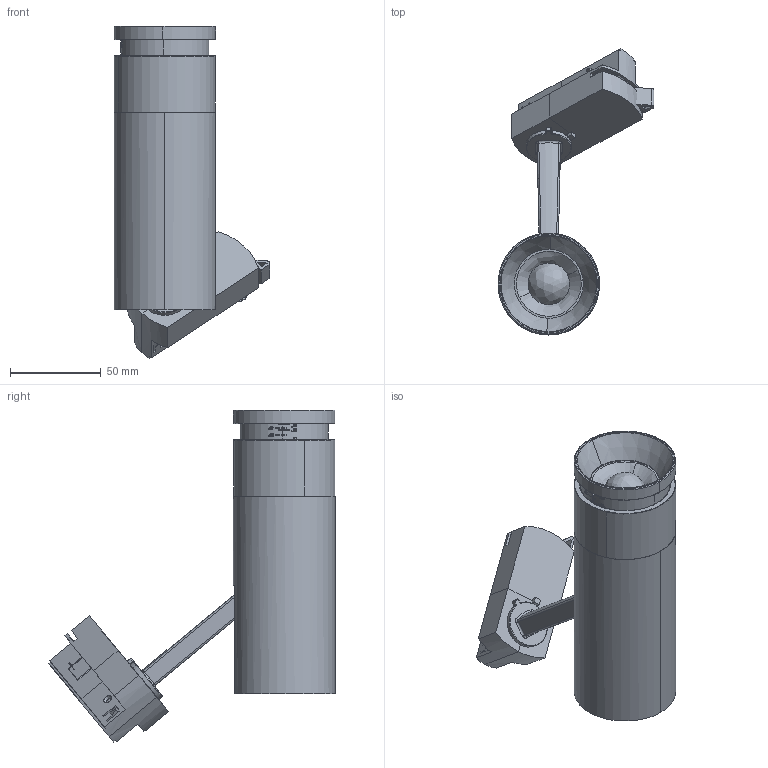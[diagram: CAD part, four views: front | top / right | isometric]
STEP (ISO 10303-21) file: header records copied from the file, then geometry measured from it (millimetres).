
FILE_DESCRIPTION (( 'STEP AP203' ), '1' );
FILE_NAME ('303051.STEP', '2020-04-23T01:23:14', ( '' ), ( '' ), 'SwSTEP 2.0', 'SolidWorks 2014', '' );
FILE_SCHEMA (( 'CONFIG_CONTROL_DESIGN' ));
Length unit declared in the file: millimetre
Products named in the file (16): PRT0070; PRT0066; D40; ǰȦ; 縐銅; PRT0069; 伸缩圈; PRT0071; PRT0063; 303051; 散热器-修模1; PRT0068; POWEGEAR; 嫖埭郪璃; PRT0067; CE-2_1
Assembly tree (16 placements, depth 2):
  303051
    散热器-修模1
    PRT0063
    PRT0066
    PRT0067
    PRT0068
    PRT0069
    PRT0070
    PRT0071
    CE-2_1  x2
    ǰȦ
    伸缩圈
    D40
    嫖埭郪璃
    縐銅
    POWEGEAR
Bounding box: 86 x 157.71 x 183.06 mm (x, y, z)
Volume: 217554.3 mm3; surface area: 149369.5 mm2
Topology: 24 solids, 24 shells, 9314 faces, 26459 edges, 17194 vertices
Faces by surface type: plane 7240, bspline 990, cylinder 794, cone 165, torus 123, sphere 2
Entity records: 358640 total; most frequent: CARTESIAN_POINT 124791, ORIENTED_EDGE 52580, DIRECTION 41823, EDGE_CURVE 26290, LINE 21687, VECTOR 21687, VERTEX_POINT 17156, AXIS2_PLACEMENT_3D 10068
